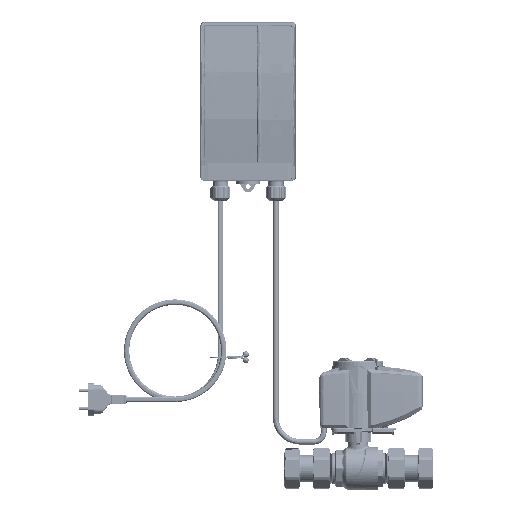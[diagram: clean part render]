
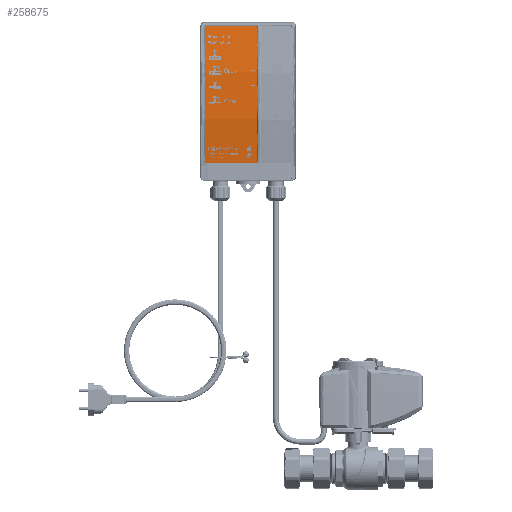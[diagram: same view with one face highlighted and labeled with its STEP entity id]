
A CAD part, front view. The second image highlights one B-rep face of the part: STEP entity #258675.
In plain terms, the highlighted cylindrical face has radius 499 mm (diameter 998 mm), a partial arc.
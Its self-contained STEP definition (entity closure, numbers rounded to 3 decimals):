
#10843 = LINE ( 'NONE', #465300, #179276 ) ;
#19038 = EDGE_CURVE ( 'NONE', #441766, #574182, #568590, .T. ) ;
#22260 = EDGE_CURVE ( 'NONE', #83619, #441766, #548337, .T. ) ;
#50873 = CARTESIAN_POINT ( 'NONE',  ( 90.497, -493.406, 0. ) ) ;
#58959 = CYLINDRICAL_SURFACE ( 'NONE', #507127, 499. ) ;
#67575 = FACE_OUTER_BOUND ( 'NONE', #213374, .T. ) ;
#83284 = DIRECTION ( 'NONE',  ( 0., -1., 0. ) ) ;
#83619 = VERTEX_POINT ( 'NONE', #424324 ) ;
#110601 = ORIENTED_EDGE ( 'NONE', *, *, #22260, .F. ) ;
#179276 = VECTOR ( 'NONE', #509346, 1000. ) ;
#181057 = VECTOR ( 'NONE', #489303, 1000. ) ;
#199535 = CARTESIAN_POINT ( 'NONE',  ( 90.497, -493.406, 0. ) ) ;
#213374 = EDGE_LOOP ( 'NONE', ( #222982, #572626, #410904, #110601 ) ) ;
#222982 = ORIENTED_EDGE ( 'NONE', *, *, #475403, .T. ) ;
#258675 = ADVANCED_FACE ( 'NONE', ( #67575 ), #58959, .T. ) ;
#262306 = DIRECTION ( 'NONE',  ( 0., 0., 1. ) ) ;
#309284 = CARTESIAN_POINT ( 'NONE',  ( 90.497, -493.406, 55. ) ) ;
#337297 = DIRECTION ( 'NONE',  ( 0., -1., 0. ) ) ;
#356117 = DIRECTION ( 'NONE',  ( 0., -1., 0. ) ) ;
#389598 = CARTESIAN_POINT ( 'NONE',  ( 160.997, 0.589, 0. ) ) ;
#410904 = ORIENTED_EDGE ( 'NONE', *, *, #19038, .F. ) ;
#424324 = CARTESIAN_POINT ( 'NONE',  ( 15.99, 0., 0. ) ) ;
#432504 = CIRCLE ( 'NONE', #451311, 499. ) ;
#440307 = CARTESIAN_POINT ( 'NONE',  ( 160.997, 0.589, 55. ) ) ;
#441766 = VERTEX_POINT ( 'NONE', #573590 ) ;
#451311 = AXIS2_PLACEMENT_3D ( 'NONE', #309284, #262306, #356117 ) ;
#452724 = DIRECTION ( 'NONE',  ( 0., 0., -1. ) ) ;
#454127 = CARTESIAN_POINT ( 'NONE',  ( 15.99, 0., 55. ) ) ;
#465300 = CARTESIAN_POINT ( 'NONE',  ( 15.99, 0., 0. ) ) ;
#466571 = DIRECTION ( 'NONE',  ( 0., 0., 1. ) ) ;
#475403 = EDGE_CURVE ( 'NONE', #83619, #574631, #10843, .T. ) ;
#489303 = DIRECTION ( 'NONE',  ( 0., 0., 1. ) ) ;
#505243 = EDGE_CURVE ( 'NONE', #574182, #574631, #432504, .T. ) ;
#507127 = AXIS2_PLACEMENT_3D ( 'NONE', #199535, #466571, #337297 ) ;
#509346 = DIRECTION ( 'NONE',  ( 0., 0., 1. ) ) ;
#548337 = CIRCLE ( 'NONE', #557519, 499. ) ;
#557519 = AXIS2_PLACEMENT_3D ( 'NONE', #50873, #452724, #83284 ) ;
#568590 = LINE ( 'NONE', #389598, #181057 ) ;
#572626 = ORIENTED_EDGE ( 'NONE', *, *, #505243, .F. ) ;
#573590 = CARTESIAN_POINT ( 'NONE',  ( 160.997, 0.589, 0. ) ) ;
#574182 = VERTEX_POINT ( 'NONE', #440307 ) ;
#574631 = VERTEX_POINT ( 'NONE', #454127 ) ;
